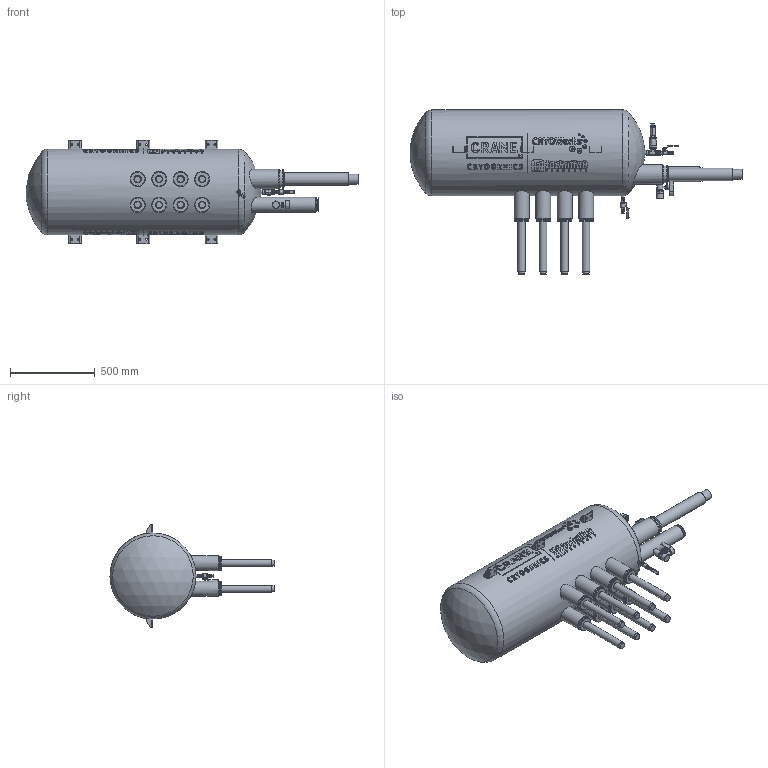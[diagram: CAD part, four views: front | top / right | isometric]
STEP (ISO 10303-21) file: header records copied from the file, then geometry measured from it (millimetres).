
FILE_DESCRIPTION (( 'STEP AP203' ), '1' );
FILE_NAME ('CA01731 CryoWorks High Flow Phase Separator 8 Outlet REV E.STEP', '2026-02-06T22:02:49', ( '' ), ( '' ), 'SwSTEP 2.0', 'SolidWorks 2023', '' );
FILE_SCHEMA (( 'CONFIG_CONTROL_DESIGN' ));
Length unit declared in the file: inch
Products named in the file (1): CA01731 CryoWorks High Flow Phase Separator 8 Outlet REV E
Bounding box: 1962.66 x 969.96 x 611.06 mm (x, y, z)
Volume: 278214131.7 mm3; surface area: 3605876.9 mm2
Topology: 1 solids, 13 shells, 2553 faces, 6425 edges, 4132 vertices
Faces by surface type: plane 1191, cylinder 665, cone 456, bspline 202, torus 27, sphere 12
Full cylindrical faces by diameter (mm): 4.66 x2, 4.75 x2, 4.775 x1, 5.105 x2, 5.527 x14, 5.546 x2, 6.221 x14, 6.272 x4, 6.35 x4, 6.362 x2, 7.112 x1, 7.183 x2, 7.976 x2, 9.188 x2, 9.246 x3, 9.257 x2, 9.525 x12, 9.58 x2, 9.842 x2, 10.262 x1, 10.635 x2, 11.1 x1, 11.112 x6, 11.333 x2, 11.879 x2, 12.494 x2, 12.508 x2, 12.7 x1, 13.494 x2, 14.267 x2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
Entity records: 177113 total; most frequent: CARTESIAN_POINT 122531, ORIENTED_EDGE 11666, DIRECTION 9971, EDGE_CURVE 5833, VERTEX_POINT 3960, AXIS2_PLACEMENT_3D 3805, EDGE_LOOP 3291, FACE_OUTER_BOUND 2771
